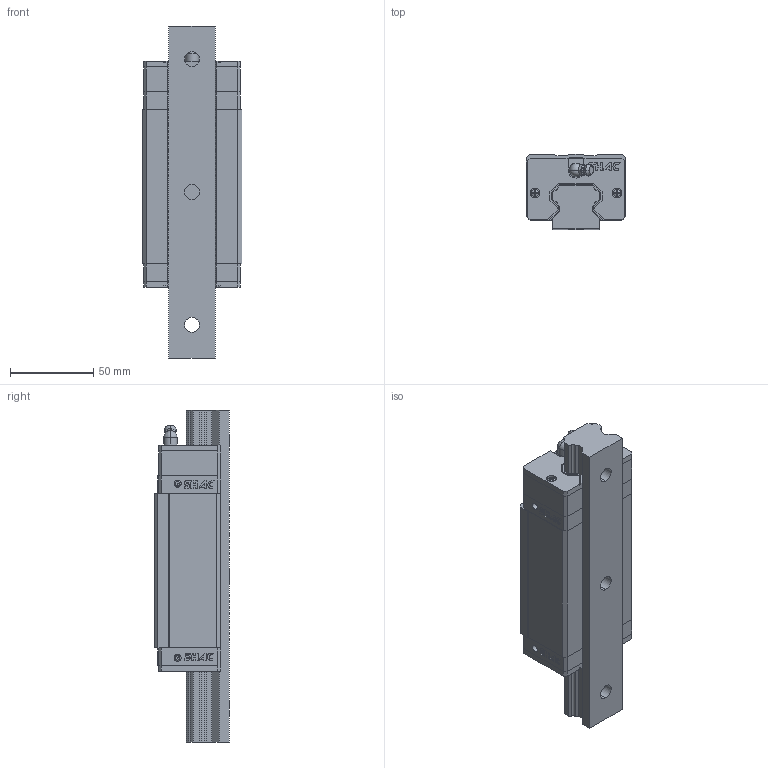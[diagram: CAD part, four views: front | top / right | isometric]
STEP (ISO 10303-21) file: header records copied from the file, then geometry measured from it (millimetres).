
FILE_DESCRIPTION (( 'STEP AP214' ), '1' );
FILE_NAME ('STP_GHH30HA_(E2)自润式_(R)上锁式_刮油片＋防尘条_200_200_1_GHH30HA_GHH30HA.step', '2020-06-27T08:08:59', ( 'IT Division' ), ( 'IT' ), 'SwSTEP 2.0', 'SolidWorks 2016', '' );
FILE_SCHEMA (( 'AUTOMOTIVE_DESIGN' ));
Length unit declared in the file: millimetre
Products named in the file (3): STP_GHH30HA_(E2)自润式_(R)上锁式_刮油片＋防尘条_200_200_1_GHH30HA_GHH30HA; STP_GHH30HA_(E2)自润式_(R)上锁式_刮油片＋防尘条_200_200_1_GHH30HA_GHH30HA_2; STP_GHH30HA_(E2)自润式_(R)上锁式_刮油片＋防尘条_200_200_1_GHH30HA_GHH30HA_1
Assembly tree (2 placements, depth 2):
  STP_GHH30HA_(E2)自润式_(R)上锁式_刮油片＋防尘条_200_200_1_GHH30HA_GHH30HA
    STP_GHH30HA_(E2)自润式_(R)上锁式_刮油片＋防尘条_200_200_1_GHH30HA_GHH30HA_1
    STP_GHH30HA_(E2)自润式_(R)上锁式_刮油片＋防尘条_200_200_1_GHH30HA_GHH30HA_2
Bounding box: 60 x 45 x 200 mm (x, y, z)
Volume: 361863.6 mm3; surface area: 81036.2 mm2
Topology: 8 solids, 8 shells, 855 faces, 2289 edges, 1502 vertices
Faces by surface type: plane 627, cylinder 162, cone 31, torus 25, sphere 10
Entity records: 29453 total; most frequent: CARTESIAN_POINT 4813, ORIENTED_EDGE 4554, DIRECTION 4434, EDGE_CURVE 2277, VECTOR 1768, LINE 1768, VERTEX_POINT 1500, AXIS2_PLACEMENT_3D 1333
